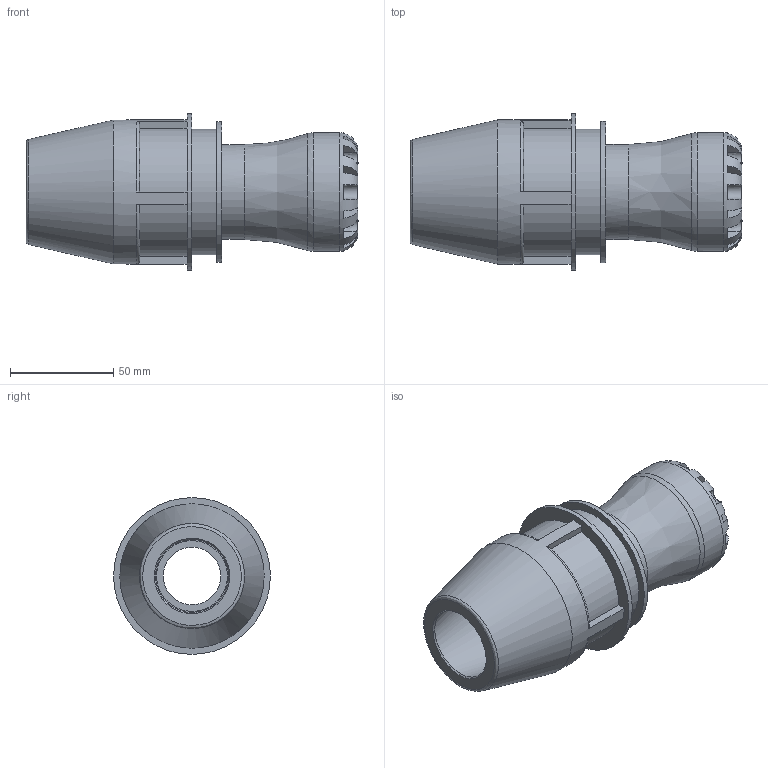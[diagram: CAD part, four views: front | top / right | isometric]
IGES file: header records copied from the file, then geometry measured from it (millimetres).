
Global section: file name: 100170032035; native system: Autodesk Inventor 2019; preprocessor: unknown; author: KIM; date: 20230831.103350; units: millimetre
Bounding box: 161 x 76 x 75.99 mm (x, y, z)
Volume: 262734.7 mm3; surface area: 60682.6 mm2
Topology: 1 solids, 1 shells, 110 faces, 296 edges, 195 vertices
Faces by surface type: bspline 110
